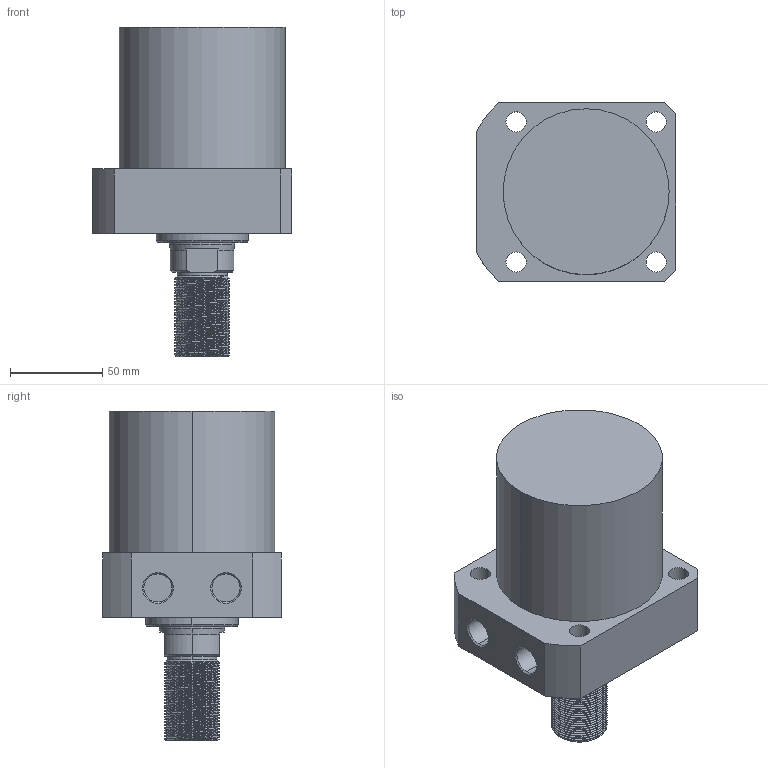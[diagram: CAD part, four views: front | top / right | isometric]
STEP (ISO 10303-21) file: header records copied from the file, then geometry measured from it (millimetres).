
FILE_DESCRIPTION (( 'STEP AP214' ), '1' );
FILE_NAME ('CLLR-090CT-055.STEP', '2020-01-09T06:37:03', ( 'Windows' ), ( 'Microsoft' ), 'SwSTEP 2.0', 'SolidWorks 2015', '' );
FILE_SCHEMA (( 'AUTOMOTIVE_DESIGN' ));
Length unit declared in the file: millimetre
Products named in the file (1): CLLR-090CT-055
Bounding box: 108 x 97 x 179 mm (x, y, z)
Volume: 881772.6 mm3; surface area: 71847.7 mm2
Topology: 1 solids, 1 shells, 124 faces, 330 edges, 216 vertices
Faces by surface type: cylinder 86, plane 20, cone 16, bspline 2
Entity records: 7020 total; most frequent: CARTESIAN_POINT 4191, ORIENTED_EDGE 660, DIRECTION 521, EDGE_CURVE 330, VERTEX_POINT 216, AXIS2_PLACEMENT_3D 199, EDGE_LOOP 140, FACE_OUTER_BOUND 124
